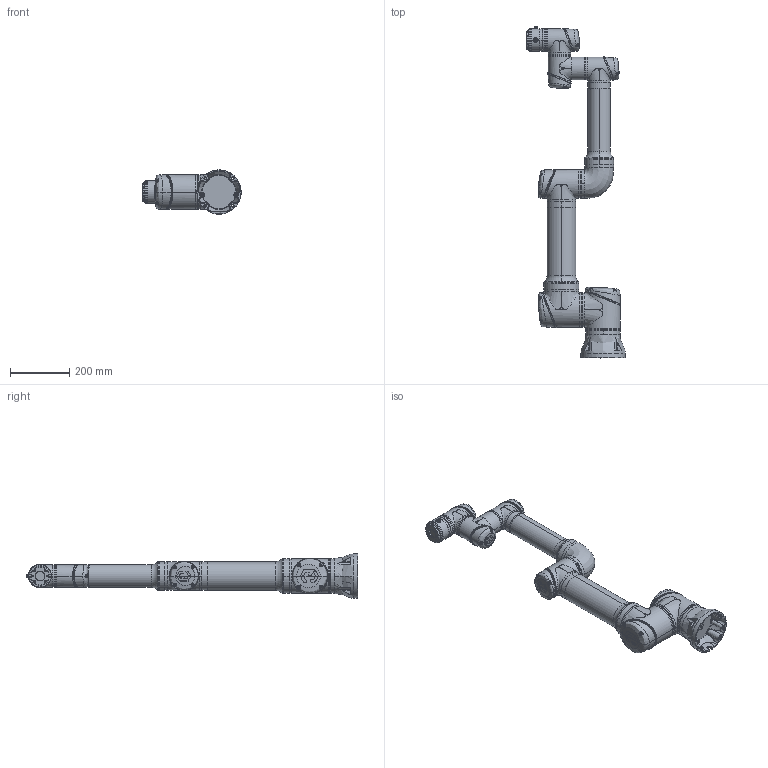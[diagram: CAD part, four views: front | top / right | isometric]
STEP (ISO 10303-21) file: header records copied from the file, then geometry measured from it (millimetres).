
FILE_DESCRIPTION (( 'STEP AP203' ), '1' );
FILE_NAME ('CS_掛极CS66F_V1.1.STEP', '2026-07-27T03:44:54', ( '' ), ( '' ), 'SwSTEP 2.0', 'SolidWorks 2017', '' );
FILE_SCHEMA (( 'CONFIG_CONTROL_DESIGN' ));
Products named in the file (8): CS66F-J1; CS66F-J2_Link1_J3; CS66F-Link2A_Link2B_J4; CS66F-Base; CS66F-J6; CS66F_藺傷; CS66F-J5; CS_掛极CS66F_V1.1
Assembly tree (7 placements, depth 2):
  CS_掛极CS66F_V1.1
    CS66F-Base
    CS66F_藺傷
    CS66F-J1
    CS66F-J2_Link1_J3
    CS66F-J5
    CS66F-J6
    CS66F-Link2A_Link2B_J4
Bounding box: 332.85 x 1124 x 149.7 mm (x, y, z)
Volume: 11969247 mm3; surface area: 927148.9 mm2
Topology: 71 solids, 78 shells, 4879 faces, 11718 edges, 7006 vertices
Faces by surface type: bspline 2354, plane 1128, cylinder 782, cone 344, sphere 153, torus 118
Entity records: 679675 total; most frequent: CARTESIAN_POINT 585023, ORIENTED_EDGE 22974, DIRECTION 14691, EDGE_CURVE 11487, VERTEX_POINT 6994, AXIS2_PLACEMENT_3D 6207, EDGE_LOOP 5185, B_SPLINE_CURVE_WITH_KNOTS 4970
